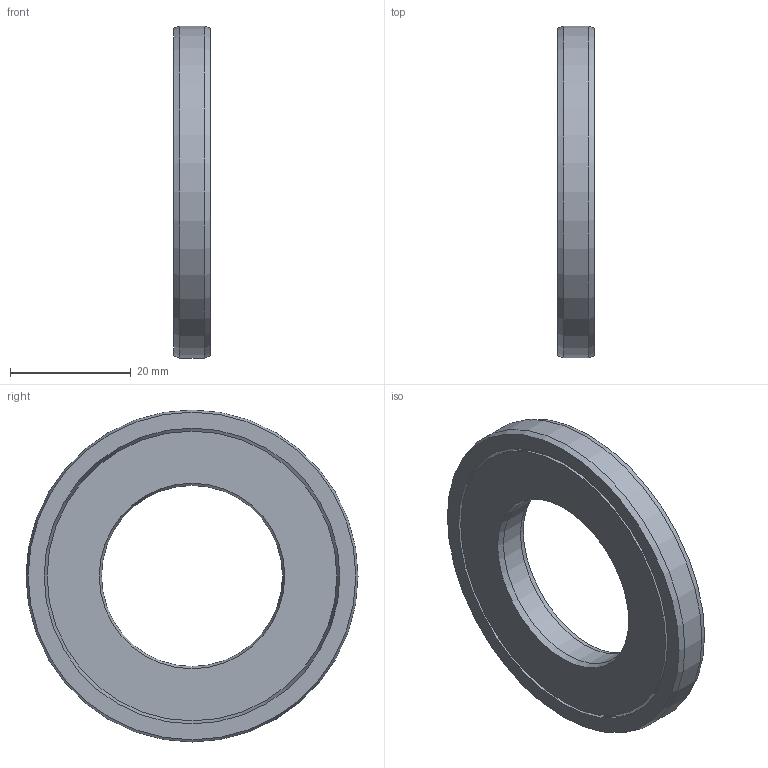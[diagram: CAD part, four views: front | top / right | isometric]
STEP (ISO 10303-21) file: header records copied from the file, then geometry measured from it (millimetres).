
FILE_DESCRIPTION(/* description */ (''),/* implementation_level */ '2;1');
FILE_NAME(/* name */ '307089 CF 6006 S10.stp',/* time_stamp */ '2016-12-16T11:16:12+01:00',/* author */ (''),/* organization */ (''),/* preprocessor_version */ 'ST-DEVELOPER v15',/* originating_system */ 'SIEMENS PLM Software NX 8.5',/* authorisation */ '');
FILE_SCHEMA (('CONFIG_CONTROL_DESIGN'));
Length unit declared in the file: millimetre
Products named in the file (1): ATE0000139_01
Bounding box: 6 x 55 x 55 mm (x, y, z)
Volume: 8927.1 mm3; surface area: 8599.9 mm2
Topology: 2 solids, 2 shells, 26 faces, 46 edges, 28 vertices
Faces by surface type: cone 10, plane 8, cylinder 8
Full cylindrical faces by diameter (mm): 30 x1, 36.5 x1, 37.5 x1, 39 x1, 40 x1, 48 x1, 49 x1, 55 x1
Entity records: 614 total; most frequent: DIRECTION 106, CARTESIAN_POINT 79, AXIS2_PLACEMENT_3D 53, FACE_BOUND 52, EDGE_LOOP 52, ORIENTED_EDGE 52, ADVANCED_FACE 26, VERTEX_POINT 26
